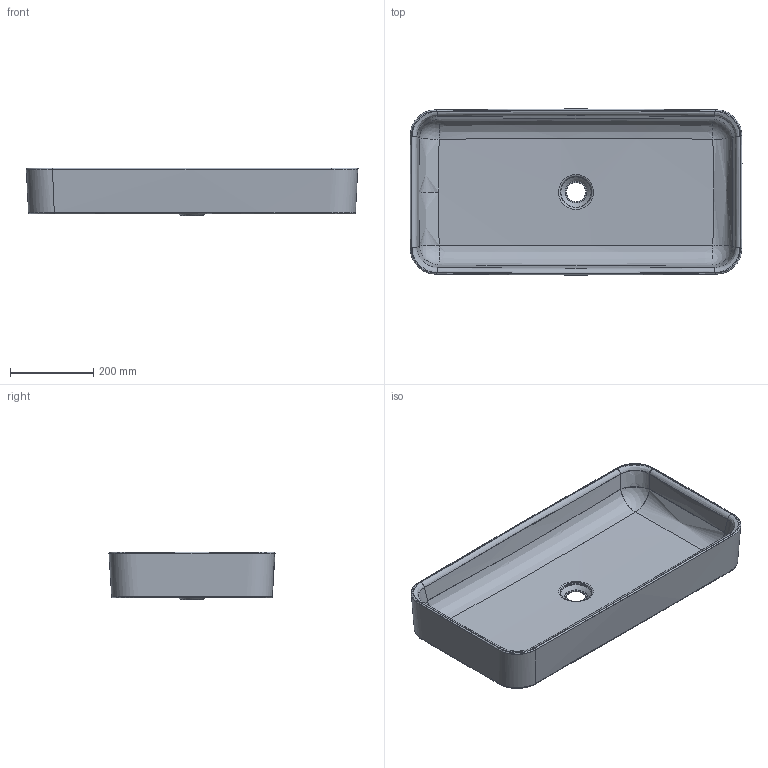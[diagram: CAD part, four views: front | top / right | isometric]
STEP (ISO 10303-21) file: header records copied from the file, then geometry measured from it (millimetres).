
FILE_DESCRIPTION (( 'STEP AP203' ), '1' );
FILE_NAME ('BE3C_Art_A182.STEP', '2018-12-05T14:55:28', ( '' ), ( '' ), 'SwSTEP 2.0', 'SolidWorks 2018', '' );
FILE_SCHEMA (( 'CONFIG_CONTROL_DESIGN' ));
Length unit declared in the file: millimetre
Products named in the file (1): BE3C_Art_A182
Bounding box: 798.68 x 399.52 x 115 mm (x, y, z)
Volume: 812270.5 mm3; surface area: 1414796.8 mm2
Topology: 1 solids, 1 shells, 95 faces, 212 edges, 125 vertices
Faces by surface type: bspline 68, sphere 10, plane 6, torus 6, cone 4, cylinder 1
Full cylindrical faces by diameter (mm): 46 x1
Entity records: 19498 total; most frequent: CARTESIAN_POINT 17921, ORIENTED_EDGE 394, EDGE_CURVE 197, B_SPLINE_CURVE_WITH_KNOTS 144, DIRECTION 141, VERTEX_POINT 121, EDGE_LOOP 114, FACE_OUTER_BOUND 104
